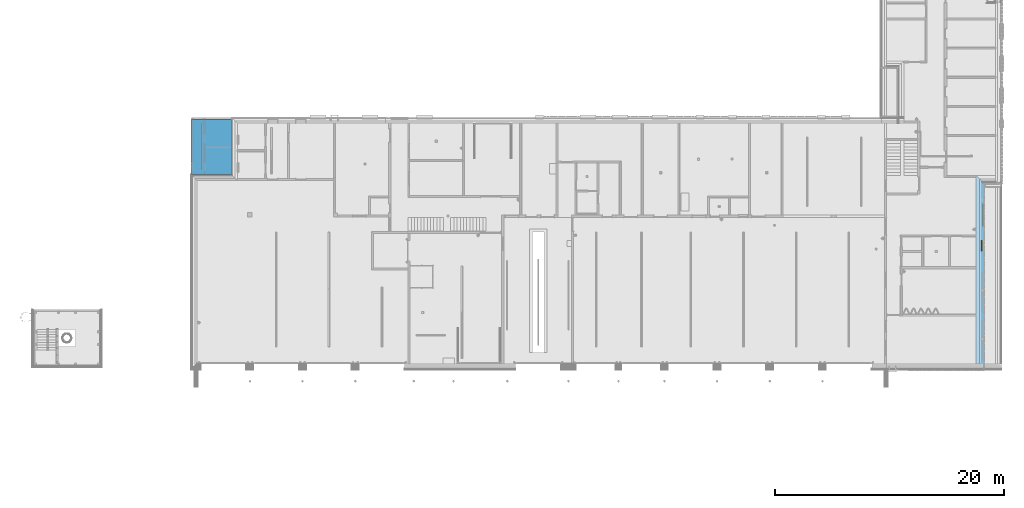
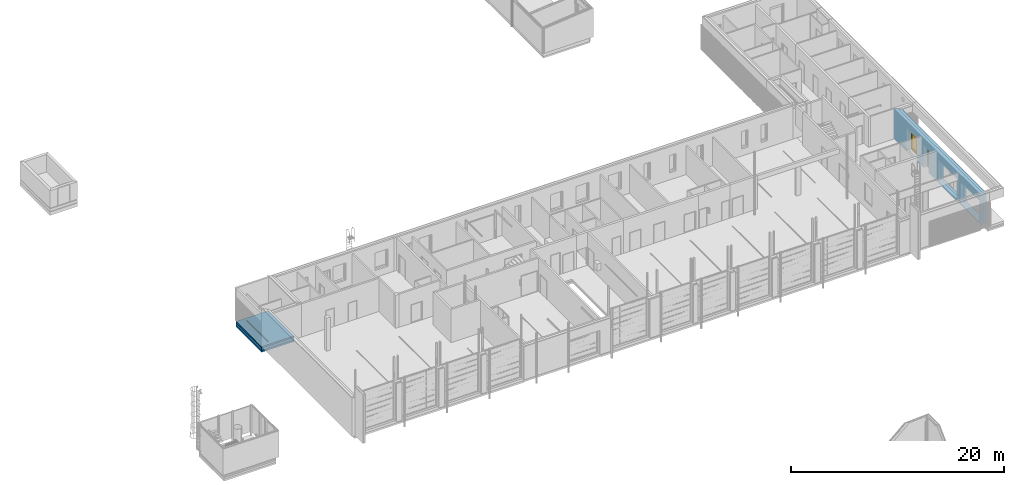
# One storey, part 54 of 112: 3 building element parts, 2 doors, 4 openings, 2 elements without a shape of their own, plus 4 elements that do not belong to this part.
"""IFC2X3 building model written with IfcOpenShell, lengths in millimetres."""

import ifcopenshell
import ifcopenshell.guid

model = None  # the IFC model being written
_history = None  # IfcOwnerHistory: only IFC2X3 demands one
_inside = {}  # id of a spatial element -> (the spatial element, [elements in it])
_under = {}  # id of a project, library or spatial element -> (it, [spatial elements below it])
_declared = {}  # id of a project -> (the project, [libraries it declares])
_typed = {}  # id of a type object -> (the type object, [elements of that type])
_made_of = {}  # id of a material, layer set ... -> (it, [elements and type objects made of it])


def new_model(schema):
    """Start an empty IFC model of exactly this schema.

    Asked for "IFC4X3", IfcOpenShell would pick the latest addendum, in which some entities
    have other attributes; the version numbers below select the first issue.
    IFC2X3 requires an IfcOwnerHistory on every rooted entity: one is made here for all.
    """
    global model, _history
    if schema == "IFC4X3":
        model = ifcopenshell.file(schema_version=(4, 3, 0, 0))
    else:
        model = ifcopenshell.file(schema=schema)
    _inside.clear()
    _under.clear()
    _declared.clear()
    _typed.clear()
    _made_of.clear()
    _history = None
    if model.schema == "IFC2X3":
        org = make("IfcOrganization", Name="unknown")
        user = make(
            "IfcPersonAndOrganization",
            ThePerson=make("IfcPerson", FamilyName="unknown"),
            TheOrganization=org,
        )
        app = make(
            "IfcApplication",
            ApplicationDeveloper=org,
            Version="unknown",
            ApplicationFullName="unknown",
            ApplicationIdentifier="unknown",
        )
        _history = make(
            "IfcOwnerHistory",
            OwningUser=user,
            OwningApplication=app,
            ChangeAction="ADDED",
            CreationDate=0,
        )
    return model


def make(cls, **values):
    """One entity of the class cls with the attributes given. An attribute that is None is left unset."""
    return model.create_entity(
        cls, **{name: value for name, value in values.items() if value is not None}
    )


def entity(cls, *values):
    """Any entity or typed value of the class cls, its attributes in the order of the schema. None: left unset."""
    e = model.create_entity(cls)
    for i, value in enumerate(values):
        if value is not None:
            e[i] = value
    return e


def rooted(cls, **values):
    """An entity with a GlobalId (a new one), such as an element, a storey or a relation."""
    return make(cls, GlobalId=ifcopenshell.guid.new(), OwnerHistory=_history, **values)


def si_unit(unit_type, name, prefix=None):
    """IfcSIUnit, for example si_unit("LENGTHUNIT", "METRE", prefix="MILLI")."""
    return make("IfcSIUnit", UnitType=unit_type, Prefix=prefix, Name=name)


def converted_unit(unit_type, name, factor, base, dimensions=None, offset=None):
    """IfcConversionBasedUnit, such as the inch: factor (a typed value) times the base unit."""
    return make(
        "IfcConversionBasedUnit"
        if offset is None
        else "IfcConversionBasedUnitWithOffset",
        ConversionOffset=offset,
        Dimensions=None
        if dimensions is None
        else entity("IfcDimensionalExponents", *dimensions),
        UnitType=unit_type,
        Name=name,
        ConversionFactor=make(
            "IfcMeasureWithUnit", ValueComponent=factor, UnitComponent=base
        ),
    )


def derived_unit(unit_type, elements):
    """IfcDerivedUnit: a product of units, each with its exponent."""
    return make(
        "IfcDerivedUnit",
        Elements=[
            make("IfcDerivedUnitElement", Unit=unit, Exponent=power)
            for unit, power in elements
        ],
        UnitType=unit_type,
    )


def money_unit(currency):
    """IfcMonetaryUnit."""
    return make("IfcMonetaryUnit", Currency=currency)


def assignment(units):
    """IfcUnitAssignment: the units of a project."""
    return None if units is None else make("IfcUnitAssignment", Units=units)


def point(xyz):
    """IfcCartesianPoint."""
    return None if xyz is None else make("IfcCartesianPoint", Coordinates=xyz)


def direction(xyz):
    """IfcDirection."""
    return None if xyz is None else make("IfcDirection", DirectionRatios=xyz)


def frame(location, z_axis=None, x_axis=None):
    """IfcAxis2Placement3D, a coordinate frame: its origin and axes. An axis left out is left unset."""
    return make(
        "IfcAxis2Placement3D",
        Location=point(location),
        Axis=direction(z_axis),
        RefDirection=direction(x_axis),
    )


def frame_2d(location, x_axis=None):
    """IfcAxis2Placement2D, a coordinate frame in the plane: its origin and x axis."""
    return make(
        "IfcAxis2Placement2D", Location=point(location), RefDirection=direction(x_axis)
    )


def origin_with_axes():
    """The frame at (0, 0, 0) with the z axis (0, 0, 1) and the x axis (1, 0, 0) written out."""
    return frame((0.0, 0.0, 0.0), z_axis=(0.0, 0.0, 1.0), x_axis=(1.0, 0.0, 0.0))


def origin_2d_with_axis():
    """The frame at (0, 0) in the plane with the x axis (1, 0) written out."""
    return frame_2d((0.0, 0.0), x_axis=(1.0, 0.0))


def place(relative_to, where):
    """IfcLocalPlacement: puts the frame where relative to a parent placement (None: the world)."""
    return make(
        "IfcLocalPlacement", PlacementRelTo=relative_to, RelativePlacement=where
    )


def context(
    kind, dimensions, precision=None, world=None, true_north=None, identifier=None
):
    """IfcGeometricRepresentationContext, for example the 3D "Model" context."""
    return make(
        "IfcGeometricRepresentationContext",
        ContextIdentifier=identifier,
        ContextType=kind,
        CoordinateSpaceDimension=dimensions,
        Precision=precision,
        WorldCoordinateSystem=world,
        TrueNorth=true_north,
    )


def subcontext(parent, identifier, kind, view, scale=None):
    """IfcGeometricRepresentationSubContext, for example "Body" below "Model"."""
    return make(
        "IfcGeometricRepresentationSubContext",
        ContextIdentifier=identifier,
        ContextType=kind,
        ParentContext=parent,
        TargetScale=scale,
        TargetView=view,
    )


def project(units=None, contexts=None):
    """IfcProject with its units and contexts."""
    return rooted(
        "IfcProject",
        Name="project",
        RepresentationContexts=contexts,
        UnitsInContext=assignment(units),
    )


def spatial(cls, under=None, at=None, **own):
    """A site, building, storey or space (cls), placed at a placement, below another one or the project."""
    s = rooted(cls, ObjectPlacement=at, **own)
    if under is not None:
        _under.setdefault(under.id(), (under, []))[1].append(s)
    return s


def polyline(points):
    """IfcPolyline through the points."""
    return make("IfcPolyline", Points=[point(p) for p in points])


def profile(cls, at=None, kind="AREA", **sizes):
    """A parametric profile (cls). Its sizes go by their IFC names, for example OverallWidth=200.0."""
    return make(cls, ProfileType=kind, Position=at, **sizes)


def rectangle(**sizes):
    """IfcRectangleProfileDef."""
    return profile("IfcRectangleProfileDef", **sizes)


def outline(outer, holes=None, kind="AREA"):
    """IfcArbitraryClosedProfileDef: a profile drawn as a closed curve; with holes, ...WithVoids."""
    if holes is None:
        return make("IfcArbitraryClosedProfileDef", ProfileType=kind, OuterCurve=outer)
    return make(
        "IfcArbitraryProfileDefWithVoids",
        ProfileType=kind,
        OuterCurve=outer,
        InnerCurves=holes,
    )


def extrude(swept, where, along, depth):
    """IfcExtrudedAreaSolid: the profile swept, set in the frame where, extruded along a direction by depth."""
    return make(
        "IfcExtrudedAreaSolid",
        SweptArea=swept,
        Position=where,
        ExtrudedDirection=direction(along),
        Depth=depth,
    )


def boolean(op, a, b):
    """IfcBooleanResult of two solids."""
    return make("IfcBooleanResult", Operator=op, FirstOperand=a, SecondOperand=b)


def faces_of(points, faces, orient=None, outer=None):
    """IfcFace entities. A face is a list of loops; a loop is a list of indices into points, from 0.

    orient and outer hold one flag for each loop. By default every Orientation is true, the
    first loop of a face is its IfcFaceOuterBound and the others are IfcFaceBound.
    """
    made = []
    for i, loops in enumerate(faces):
        bounds = []
        for j, loop in enumerate(loops):
            is_outer = j == 0 if outer is None else outer[i][j]
            bounds.append(
                make(
                    "IfcFaceOuterBound" if is_outer else "IfcFaceBound",
                    Bound=make("IfcPolyLoop", Polygon=[points[k] for k in loop]),
                    Orientation=True if orient is None else orient[i][j],
                )
            )
        made.append(make("IfcFace", Bounds=bounds))
    return made


def open_shell(faces, orient=None, outer=None):
    """The faces of one IfcOpenShell. surface_model builds it on its shared points."""
    return ("IfcOpenShell", faces, orient, outer)


def faceted_brep(points, faces, orient=None, outer=None, voids=None):
    """IfcFacetedBrep: a solid bounded by flat faces; with voids (closed shells), ...WithVoids."""
    shared = [point(p) for p in points]
    hull = make("IfcClosedShell", CfsFaces=faces_of(shared, faces, orient, outer))
    if voids is None:
        return make("IfcFacetedBrep", Outer=hull)
    return make(
        "IfcFacetedBrepWithVoids",
        Outer=hull,
        Voids=[
            make(cls, CfsFaces=faces_of(shared, fs, o, b)) for cls, fs, o, b in voids
        ],
    )


def surface_model(cls, points, shells):
    """IfcFaceBasedSurfaceModel or IfcShellBasedSurfaceModel (cls): surfaces that need not close."""
    shared = [point(p) for p in points]
    made = [make(c, CfsFaces=faces_of(shared, fs, o, b)) for c, fs, o, b in shells]
    if cls == "IfcFaceBasedSurfaceModel":
        return make(cls, FbsmFaces=made)
    return make(cls, SbsmBoundary=made)


def shape(context_of_items, identifier, shape_type, items):
    """IfcShapeRepresentation: the items that make up one representation, for example the "Body"."""
    return make(
        "IfcShapeRepresentation",
        ContextOfItems=context_of_items,
        RepresentationIdentifier=identifier,
        RepresentationType=shape_type,
        Items=items,
    )


def material(Name=None, Category=None):
    """IfcMaterial."""
    return make("IfcMaterial", Name=Name, Category=Category)


def made_of(thing, what):
    """Note that an element or type object is made of a material, layer set ...; save() writes the relation."""
    if what is not None:
        _made_of.setdefault(what.id(), (what, []))[1].append(thing)
    return thing


def type_object(cls, material=None, **own):
    """A type object (cls), such as IfcWallType, which elements share."""
    return made_of(rooted(cls, **own), material)


def element(
    cls,
    number,
    at=None,
    inside=None,
    cuts=None,
    type_object=None,
    material=None,
    context=None,
    identifier="Body",
    shape_type=None,
    held_by="IfcProductDefinitionShape",
    body=None,
    shapes=None,
    **own,
):
    """One element of the class cls, such as IfcWall. Its Tag is "e" and its number.

    at: its placement. inside: the storey or other place that contains it. cuts: it is an
    opening in that element (IfcRelVoidsElement). A single representation is given by context,
    identifier, shape_type and body (its items); several are given by shapes. held_by: the class
    of the entity that holds the representations. save() writes the other relations.
    """
    e = rooted(cls, Tag="e%d" % number, ObjectPlacement=at, **own)
    if body is not None:
        shapes = [shape(context, identifier, shape_type, body)]
    if shapes is not None:
        e.Representation = make(held_by, Representations=shapes)
    if inside is not None:
        _inside.setdefault(inside.id(), (inside, []))[1].append(e)
    if cuts is not None:
        rooted(
            "IfcRelVoidsElement", RelatingBuildingElement=cuts, RelatedOpeningElement=e
        )
    if type_object is not None:
        _typed.setdefault(type_object.id(), (type_object, []))[1].append(e)
    return made_of(e, material)


def fill(opening, filler):
    """IfcRelFillsElement: the door or window that sits in an opening."""
    return rooted(
        "IfcRelFillsElement",
        RelatingOpeningElement=opening,
        RelatedBuildingElement=filler,
    )


def aggregate(whole, parts):
    """IfcRelAggregates: a whole, such as a stair, and the parts it consists of."""
    return rooted("IfcRelAggregates", RelatingObject=whole, RelatedObjects=parts)


def save(model, path):
    """Write the relations noted so far, then the file.

    IfcRelAggregates (storeys below a building ...), IfcRelContainedInSpatialStructure (elements
    in a storey), IfcRelDefinesByType, IfcRelAssociatesMaterial and IfcRelDeclares: one each for
    every whole, place, type object, material and project.
    """
    for whole, parts in _under.values():
        aggregate(whole, parts)
    for where, things in _inside.values():
        rooted(
            "IfcRelContainedInSpatialStructure",
            RelatedElements=things,
            RelatingStructure=where,
        )
    for kind, things in _typed.values():
        rooted("IfcRelDefinesByType", RelatedObjects=things, RelatingType=kind)
    for what, things in _made_of.values():
        rooted("IfcRelAssociatesMaterial", RelatedObjects=things, RelatingMaterial=what)
    for by, libraries in _declared.values():
        rooted("IfcRelDeclares", RelatingContext=by, RelatedDefinitions=libraries)
    model.write(path)


model = new_model("IFC2X3")

# Units and contexts
model_context = context("Model", 3, precision=0.01, world=origin_with_axes(), true_north=direction((0.0, 1.0)))
body_context = subcontext(model_context, "Body", "Model", "MODEL_VIEW")
ifc_project = project(units=[si_unit("LENGTHUNIT", "METRE", prefix="MILLI"), si_unit("AREAUNIT", "SQUARE_METRE"), si_unit("VOLUMEUNIT", "CUBIC_METRE"), converted_unit("PLANEANGLEUNIT", "DEGREE", entity("IfcPlaneAngleMeasure", 0.0174532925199), si_unit("PLANEANGLEUNIT", "RADIAN"), dimensions=[0, 0, 0, 0, 0, 0, 0]), si_unit("SOLIDANGLEUNIT", "STERADIAN"), money_unit("EUR"), converted_unit("TIMEUNIT", "Year", entity("IfcTimeMeasure", 31556926.0), si_unit("TIMEUNIT", "SECOND"), dimensions=[0, 0, 1, 0, 0, 0, 0]), si_unit("MASSUNIT", "GRAM", prefix="KILO"), si_unit("THERMODYNAMICTEMPERATUREUNIT", "DEGREE_CELSIUS"), si_unit("LUMINOUSINTENSITYUNIT", "LUMEN"), si_unit("ENERGYUNIT", "JOULE", prefix="MEGA"), derived_unit("THERMALCONDUCTANCEUNIT", [(si_unit("POWERUNIT", "WATT"), 1), (si_unit("LENGTHUNIT", "METRE"), -1), (si_unit("THERMODYNAMICTEMPERATUREUNIT", "KELVIN"), -1)]), derived_unit("SPECIFICHEATCAPACITYUNIT", [(si_unit("ENERGYUNIT", "JOULE"), 1), (si_unit("MASSUNIT", "GRAM", prefix="KILO"), -1), (si_unit("THERMODYNAMICTEMPERATUREUNIT", "KELVIN"), -1)]), derived_unit("MASSDENSITYUNIT", [(si_unit("MASSUNIT", "GRAM", prefix="KILO"), 1), (si_unit("VOLUMEUNIT", "CUBIC_METRE"), -1)])], contexts=[model_context])

# Site, building, storey
site_placement = place(None, origin_with_axes())
site = spatial("IfcSite", under=ifc_project, at=site_placement, Name="Politse- ja Piirivalveameti ning Päästeameti ühishoone", CompositionType="ELEMENT")
building_placement = place(site_placement, origin_with_axes())
building = spatial("IfcBuilding", under=site, at=building_placement, Name="Politse- ja Piirivalveameti ning Päästeameti ühishoone", CompositionType="ELEMENT")
storey_placement = place(building_placement, origin_with_axes())
storey = spatial("IfcBuildingStorey", under=building, at=storey_placement, Name="Esimene korrus", CompositionType="ELEMENT", Elevation=0.0)

# Door
door_style_1 = type_object("IfcDoorStyle", Name="Double Door with Transom 23", ConstructionType="NOTDEFINED", OperationType="DOUBLE_DOOR_SINGLE_SWING", ParameterTakesPrecedence=False, Sizeable=False)
wall_placement = place(storey_placement, frame((67960.5638285, 0.0, 0.0), z_axis=(0.0, 0.0, 1.0), x_axis=(0.0, 1.0, 0.0)))
opening_3_placement = place(wall_placement, frame((13002.9890326, 0.0, 0.0), z_axis=(0.0, 0.0, 1.0), x_axis=(1.0, 0.0, 0.0)))
door_1_placement = place(opening_3_placement, frame((1000.0, 0.0, 0.0), z_axis=(0.0, 0.0, 1.0), x_axis=(-1.0, 0.0, 0.0)))
door_1 = element("IfcDoor", 1, at=door_1_placement, inside=storey, type_object=door_style_1, Name="VU-02", ObjectType="DOOR", OverallHeight=2600.0, OverallWidth=2000.0, context=body_context, shape_type="SurfaceModel", body=[
    faceted_brep([(1972.0, 580.0, 0.0), (1972.0, 580.0, 12.0), (1960.0, 580.0, 12.0), (1960.0, 580.0, 0.0), (28.0, 580.0, 0.0), (28.0, 580.0, 12.0), (40.0, 580.0, 12.0), (40.0, 505.0, 12.0), (1960.0, 505.0, 12.0), (1960.0, 505.0, 0.0), (40.0, 505.0, 0.0), (40.0, 580.0, 0.0)], [[[0, 1, 2, 3]], [[4, 5, 1, 0]], [[1, 5, 6, 7, 8, 2]], [[3, 2, 8, 9]], [[0, 3, 9, 10, 11, 4]], [[11, 6, 5, 4]], [[10, 7, 6, 11]], [[9, 8, 7, 10]]]),
    faceted_brep([(40.0, 580.0, 2112.0), (40.0, 620.0, 2112.0), (40.0, 620.0, 2140.0), (40.0, 505.0, 2140.0), (40.0, 505.0, 2100.0), (40.0, 505.0, 0.0), (40.0, 580.0, 0.0), (28.0, 580.0, 2112.0), (28.0, 620.0, 2112.0), (28.0, 620.0, 0.0), (0.0, 620.0, 0.0), (0.0, 620.0, 2560.0), (40.0, 620.0, 2560.0), (40.0, 505.0, 2560.0), (0.0, 505.0, 2560.0), (0.0, 505.0, 0.0), (28.0, 580.0, 0.0)], [[[0, 1, 2, 3, 4, 5, 6]], [[1, 0, 7, 8]], [[8, 9, 10, 11, 12, 2, 1]], [[12, 13, 3, 2]], [[3, 13, 14, 15, 5, 4]], [[16, 6, 5, 15, 10, 9]], [[0, 6, 16, 7]], [[9, 8, 7, 16]], [[10, 15, 14, 11]], [[11, 14, 13, 12]]]),
    faceted_brep([(1972.0, 620.0, 2112.0), (1960.0, 620.0, 2112.0), (1960.0, 620.0, 2140.0), (1960.0, 620.0, 2560.0), (2000.0, 620.0, 2560.0), (2000.0, 620.0, 0.0), (1972.0, 620.0, 0.0), (1972.0, 580.0, 2112.0), (1960.0, 580.0, 2112.0), (1960.0, 580.0, 0.0), (1960.0, 505.0, 0.0), (1960.0, 505.0, 2100.0), (1960.0, 505.0, 2140.0), (1960.0, 505.0, 2560.0), (2000.0, 505.0, 2560.0), (2000.0, 505.0, 0.0), (1972.0, 580.0, 0.0)], [[[0, 1, 2, 3, 4, 5, 6]], [[1, 0, 7, 8]], [[8, 9, 10, 11, 12, 2, 1]], [[2, 12, 13, 3]], [[3, 13, 14, 4]], [[4, 14, 15, 5]], [[16, 6, 5, 15, 10, 9]], [[0, 6, 16, 7]], [[16, 9, 8, 7]], [[12, 11, 10, 15, 14, 13]]]),
    faceted_brep([(0.0, 620.0, 2600.0), (0.0, 620.0, 2560.0), (0.0, 505.0, 2560.0), (0.0, 505.0, 2600.0), (2000.0, 620.0, 2600.0), (2000.0, 620.0, 2560.0), (1960.0, 620.0, 2560.0), (40.0, 620.0, 2560.0), (40.0, 505.0, 2560.0), (1960.0, 505.0, 2560.0), (2000.0, 505.0, 2560.0), (2000.0, 505.0, 2600.0)], [[[0, 1, 2, 3]], [[0, 4, 5, 6, 7, 1]], [[1, 7, 8, 2]], [[3, 2, 8, 9, 10, 11]], [[4, 0, 3, 11]], [[5, 4, 11, 10]], [[6, 5, 10, 9]], [[7, 6, 9, 8]]]),
    faceted_brep([(1960.0, 580.0, 2112.0), (1960.0, 620.0, 2112.0), (1960.0, 620.0, 2140.0), (1960.0, 505.0, 2140.0), (1960.0, 505.0, 2100.0), (1960.0, 580.0, 2100.0), (40.0, 580.0, 2112.0), (40.0, 620.0, 2112.0), (40.0, 620.0, 2140.0), (40.0, 505.0, 2140.0), (40.0, 505.0, 2100.0), (40.0, 580.0, 2100.0)], [[[0, 1, 2, 3, 4, 5]], [[1, 0, 6, 7]], [[1, 7, 8, 2]], [[8, 9, 3, 2]], [[10, 4, 3, 9]], [[11, 5, 4, 10]], [[0, 5, 11, 6]], [[6, 11, 10, 9, 8, 7]]]),
    faceted_brep([(1972.0, 620.0, 200.0), (1972.0, 580.0, 200.0), (1872.0, 580.0, 200.0), (1872.0, 620.0, 200.0), (1972.0, 620.0, 2012.0), (1972.0, 580.0, 2012.0), (1872.0, 580.0, 2012.0), (1872.0, 620.0, 2012.0)], [[[0, 1, 2, 3]], [[4, 5, 1, 0]], [[1, 5, 6, 2]], [[3, 2, 6, 7]], [[0, 3, 7, 4]], [[7, 6, 5, 4]]]),
    faceted_brep([(1000.0, 620.0, 200.0), (1000.0, 580.0, 200.0), (1000.0, 580.0, 2012.0), (1000.0, 620.0, 2012.0), (1100.0, 620.0, 200.0), (1100.0, 580.0, 200.0), (1100.0, 580.0, 2012.0), (1100.0, 620.0, 2012.0)], [[[0, 1, 2, 3]], [[4, 5, 1, 0]], [[1, 5, 6, 2]], [[3, 2, 6, 7]], [[0, 3, 7, 4]], [[7, 6, 5, 4]]]),
    faceted_brep([(1972.0, 620.0, 0.0), (1972.0, 580.0, 0.0), (1000.0, 580.0, 0.0), (1000.0, 620.0, 0.0), (1972.0, 620.0, 200.0), (1972.0, 580.0, 200.0), (1872.0, 580.0, 200.0), (1100.0, 580.0, 200.0), (1000.0, 580.0, 200.0), (1000.0, 620.0, 200.0), (1100.0, 620.0, 200.0), (1872.0, 620.0, 200.0)], [[[0, 1, 2, 3]], [[4, 5, 1, 0]], [[1, 5, 6, 7, 8, 2]], [[3, 2, 8, 9]], [[0, 3, 9, 10, 11, 4]], [[11, 6, 5, 4]], [[10, 7, 6, 11]], [[9, 8, 7, 10]]]),
    faceted_brep([(1972.0, 620.0, 2112.0), (1972.0, 580.0, 2112.0), (1972.0, 580.0, 2012.0), (1972.0, 620.0, 2012.0), (1000.0, 620.0, 2112.0), (1000.0, 580.0, 2112.0), (1000.0, 580.0, 2012.0), (1100.0, 580.0, 2012.0), (1872.0, 580.0, 2012.0), (1872.0, 620.0, 2012.0), (1100.0, 620.0, 2012.0), (1000.0, 620.0, 2012.0)], [[[0, 1, 2, 3]], [[4, 5, 1, 0]], [[1, 5, 6, 7, 8, 2]], [[3, 2, 8, 9]], [[0, 3, 9, 10, 11, 4]], [[11, 6, 5, 4]], [[10, 7, 6, 11]], [[9, 8, 7, 10]]]),
    surface_model("IfcShellBasedSurfaceModel", [(1872.0, 606.0, 200.0), (1100.0, 606.0, 200.0), (1100.0, 606.0, 2012.0), (1872.0, 606.0, 2012.0)], [open_shell([[[0, 1, 2, 3]]])]),
    surface_model("IfcShellBasedSurfaceModel", [(1872.0, 594.0, 200.0), (1872.0, 594.0, 2012.0), (1100.0, 594.0, 2012.0), (1100.0, 594.0, 200.0)], [open_shell([[[0, 1, 2, 3]]])]),
    faceted_brep([(28.0, 620.0, 200.0), (128.0, 620.0, 200.0), (128.0, 580.0, 200.0), (28.0, 580.0, 200.0), (28.0, 620.0, 2012.0), (128.0, 620.0, 2012.0), (128.0, 580.0, 2012.0), (28.0, 580.0, 2012.0)], [[[0, 1, 2, 3]], [[0, 4, 5, 1]], [[1, 5, 6, 2]], [[3, 2, 6, 7]], [[4, 0, 3, 7]], [[5, 4, 7, 6]]]),
    faceted_brep([(1000.0, 620.0, 200.0), (1000.0, 620.0, 2012.0), (1000.0, 580.0, 2012.0), (1000.0, 580.0, 200.0), (900.0, 620.0, 200.0), (900.0, 620.0, 2012.0), (900.0, 580.0, 2012.0), (900.0, 580.0, 200.0)], [[[0, 1, 2, 3]], [[0, 4, 5, 1]], [[1, 5, 6, 2]], [[3, 2, 6, 7]], [[4, 0, 3, 7]], [[5, 4, 7, 6]]]),
    faceted_brep([(28.0, 620.0, 0.0), (1000.0, 620.0, 0.0), (1000.0, 580.0, 0.0), (28.0, 580.0, 0.0), (28.0, 620.0, 200.0), (128.0, 620.0, 200.0), (900.0, 620.0, 200.0), (1000.0, 620.0, 200.0), (1000.0, 580.0, 200.0), (900.0, 580.0, 200.0), (128.0, 580.0, 200.0), (28.0, 580.0, 200.0)], [[[0, 1, 2, 3]], [[0, 4, 5, 6, 7, 1]], [[1, 7, 8, 2]], [[3, 2, 8, 9, 10, 11]], [[4, 0, 3, 11]], [[5, 4, 11, 10]], [[6, 5, 10, 9]], [[7, 6, 9, 8]]]),
    faceted_brep([(28.0, 620.0, 2112.0), (28.0, 620.0, 2012.0), (28.0, 580.0, 2012.0), (28.0, 580.0, 2112.0), (1000.0, 620.0, 2112.0), (1000.0, 620.0, 2012.0), (900.0, 620.0, 2012.0), (128.0, 620.0, 2012.0), (128.0, 580.0, 2012.0), (900.0, 580.0, 2012.0), (1000.0, 580.0, 2012.0), (1000.0, 580.0, 2112.0)], [[[0, 1, 2, 3]], [[0, 4, 5, 6, 7, 1]], [[1, 7, 8, 2]], [[3, 2, 8, 9, 10, 11]], [[4, 0, 3, 11]], [[5, 4, 11, 10]], [[6, 5, 10, 9]], [[7, 6, 9, 8]]]),
    surface_model("IfcShellBasedSurfaceModel", [(128.0, 606.0, 200.0), (128.0, 606.0, 2012.0), (900.0, 606.0, 2012.0), (900.0, 606.0, 200.0)], [open_shell([[[0, 1, 2, 3]]])]),
    surface_model("IfcShellBasedSurfaceModel", [(128.0, 594.0, 200.0), (900.0, 594.0, 200.0), (900.0, 594.0, 2012.0), (128.0, 594.0, 2012.0)], [open_shell([[[0, 1, 2, 3]]])]),
    surface_model("IfcShellBasedSurfaceModel", [(40.0, 529.0, 2140.0), (40.0, 529.0, 2560.0), (1960.0, 529.0, 2560.0), (1960.0, 529.0, 2140.0)], [open_shell([[[0, 1, 2, 3]]])]),
    surface_model("IfcShellBasedSurfaceModel", [(40.0, 517.0, 2140.0), (1960.0, 517.0, 2140.0), (1960.0, 517.0, 2560.0), (40.0, 517.0, 2560.0)], [open_shell([[[0, 1, 2, 3]]])]),
])

door_style_2 = type_object("IfcDoorStyle", Name="Door with Transom 23", ConstructionType="NOTDEFINED", OperationType="SINGLE_SWING_LEFT", ParameterTakesPrecedence=False, Sizeable=False)
opening_4_placement = place(wall_placement, frame((10303.1201278, 0.0, 0.0), z_axis=(0.0, 0.0, 1.0), x_axis=(1.0, 0.0, 0.0)))
door_2_placement = place(opening_4_placement, frame((500.0, 0.0, 0.0), z_axis=(0.0, 0.0, 1.0), x_axis=(-1.0, 0.0, 0.0)))
door_2 = element("IfcDoor", 2, at=door_2_placement, inside=storey, type_object=door_style_2, Name="VU-07", ObjectType="DOOR", OverallHeight=2600.0, OverallWidth=1000.0, context=body_context, shape_type="SurfaceModel", body=[
    faceted_brep([(28.0, 510.0, 0.0), (40.0, 510.0, 0.0), (40.0, 510.0, 12.0), (28.0, 510.0, 12.0), (972.0, 510.0, 0.0), (960.0, 510.0, 0.0), (960.0, 435.0, 0.0), (40.0, 435.0, 0.0), (40.0, 435.0, 12.0), (960.0, 435.0, 12.0), (960.0, 510.0, 12.0), (972.0, 510.0, 12.0)], [[[0, 1, 2, 3]], [[0, 4, 5, 6, 7, 1]], [[1, 7, 8, 2]], [[3, 2, 8, 9, 10, 11]], [[4, 0, 3, 11]], [[5, 4, 11, 10]], [[6, 5, 10, 9]], [[7, 6, 9, 8]]]),
    faceted_brep([(960.0, 510.0, 2112.0), (960.0, 510.0, 0.0), (960.0, 435.0, 0.0), (960.0, 435.0, 2100.0), (960.0, 435.0, 2140.0), (960.0, 550.0, 2140.0), (960.0, 550.0, 2112.0), (972.0, 510.0, 2112.0), (972.0, 510.0, 0.0), (972.0, 550.0, 0.0), (1000.0, 550.0, 0.0), (1000.0, 435.0, 0.0), (1000.0, 435.0, 2560.0), (960.0, 435.0, 2560.0), (960.0, 550.0, 2560.0), (972.0, 550.0, 2112.0), (1000.0, 550.0, 2560.0)], [[[0, 1, 2, 3, 4, 5, 6]], [[0, 7, 8, 1]], [[8, 9, 10, 11, 2, 1]], [[4, 3, 2, 11, 12, 13]], [[14, 5, 4, 13]], [[15, 6, 5, 14, 16, 10, 9]], [[6, 15, 7, 0]], [[9, 8, 7, 15]], [[10, 16, 12, 11]], [[16, 14, 13, 12]]]),
    faceted_brep([(28.0, 550.0, 2112.0), (28.0, 550.0, 0.0), (0.0, 550.0, 0.0), (0.0, 550.0, 2560.0), (40.0, 550.0, 2560.0), (40.0, 550.0, 2140.0), (40.0, 550.0, 2112.0), (28.0, 510.0, 2112.0), (28.0, 510.0, 0.0), (40.0, 510.0, 0.0), (40.0, 435.0, 0.0), (0.0, 435.0, 0.0), (0.0, 435.0, 2560.0), (40.0, 435.0, 2560.0), (40.0, 435.0, 2140.0), (40.0, 510.0, 2112.0), (40.0, 435.0, 2100.0)], [[[0, 1, 2, 3, 4, 5, 6]], [[0, 7, 8, 1]], [[8, 9, 10, 11, 2, 1]], [[3, 2, 11, 12]], [[4, 3, 12, 13]], [[5, 4, 13, 14]], [[15, 6, 5, 14, 16, 10, 9]], [[6, 15, 7, 0]], [[8, 7, 15, 9]], [[14, 13, 12, 11, 10, 16]]]),
    faceted_brep([(1000.0, 550.0, 2600.0), (1000.0, 435.0, 2600.0), (1000.0, 435.0, 2560.0), (1000.0, 550.0, 2560.0), (0.0, 550.0, 2600.0), (0.0, 435.0, 2600.0), (0.0, 435.0, 2560.0), (40.0, 435.0, 2560.0), (960.0, 435.0, 2560.0), (960.0, 550.0, 2560.0), (40.0, 550.0, 2560.0), (0.0, 550.0, 2560.0)], [[[0, 1, 2, 3]], [[4, 5, 1, 0]], [[1, 5, 6, 7, 8, 2]], [[3, 2, 8, 9]], [[0, 3, 9, 10, 11, 4]], [[11, 6, 5, 4]], [[10, 7, 6, 11]], [[9, 8, 7, 10]]]),
    faceted_brep([(40.0, 510.0, 2112.0), (40.0, 510.0, 2100.0), (40.0, 435.0, 2100.0), (40.0, 435.0, 2140.0), (40.0, 550.0, 2140.0), (40.0, 550.0, 2112.0), (960.0, 510.0, 2112.0), (960.0, 510.0, 2100.0), (960.0, 435.0, 2100.0), (960.0, 435.0, 2140.0), (960.0, 550.0, 2140.0), (960.0, 550.0, 2112.0)], [[[0, 1, 2, 3, 4, 5]], [[0, 6, 7, 1]], [[7, 8, 2, 1]], [[8, 9, 3, 2]], [[10, 4, 3, 9]], [[5, 4, 10, 11]], [[5, 11, 6, 0]], [[6, 11, 10, 9, 8, 7]]]),
    faceted_brep([(28.0, 550.0, 200.0), (128.0, 550.0, 200.0), (128.0, 510.0, 200.0), (28.0, 510.0, 200.0), (28.0, 550.0, 2012.0), (128.0, 550.0, 2012.0), (128.0, 510.0, 2012.0), (28.0, 510.0, 2012.0)], [[[0, 1, 2, 3]], [[0, 4, 5, 1]], [[1, 5, 6, 2]], [[3, 2, 6, 7]], [[4, 0, 3, 7]], [[5, 4, 7, 6]]]),
    faceted_brep([(972.0, 550.0, 200.0), (972.0, 550.0, 2012.0), (972.0, 510.0, 2012.0), (972.0, 510.0, 200.0), (872.0, 550.0, 200.0), (872.0, 550.0, 2012.0), (872.0, 510.0, 2012.0), (872.0, 510.0, 200.0)], [[[0, 1, 2, 3]], [[0, 4, 5, 1]], [[1, 5, 6, 2]], [[3, 2, 6, 7]], [[4, 0, 3, 7]], [[5, 4, 7, 6]]]),
    faceted_brep([(28.0, 550.0, 0.0), (972.0, 550.0, 0.0), (972.0, 510.0, 0.0), (28.0, 510.0, 0.0), (28.0, 550.0, 200.0), (128.0, 550.0, 200.0), (872.0, 550.0, 200.0), (972.0, 550.0, 200.0), (972.0, 510.0, 200.0), (872.0, 510.0, 200.0), (128.0, 510.0, 200.0), (28.0, 510.0, 200.0)], [[[0, 1, 2, 3]], [[0, 4, 5, 6, 7, 1]], [[1, 7, 8, 2]], [[3, 2, 8, 9, 10, 11]], [[4, 0, 3, 11]], [[5, 4, 11, 10]], [[6, 5, 10, 9]], [[7, 6, 9, 8]]]),
    faceted_brep([(28.0, 550.0, 2112.0), (28.0, 550.0, 2012.0), (28.0, 510.0, 2012.0), (28.0, 510.0, 2112.0), (972.0, 550.0, 2112.0), (972.0, 550.0, 2012.0), (872.0, 550.0, 2012.0), (128.0, 550.0, 2012.0), (128.0, 510.0, 2012.0), (872.0, 510.0, 2012.0), (972.0, 510.0, 2012.0), (972.0, 510.0, 2112.0)], [[[0, 1, 2, 3]], [[0, 4, 5, 6, 7, 1]], [[1, 7, 8, 2]], [[3, 2, 8, 9, 10, 11]], [[4, 0, 3, 11]], [[5, 4, 11, 10]], [[6, 5, 10, 9]], [[7, 6, 9, 8]]]),
    surface_model("IfcShellBasedSurfaceModel", [(128.0, 536.0, 200.0), (128.0, 536.0, 2012.0), (872.0, 536.0, 2012.0), (872.0, 536.0, 200.0)], [open_shell([[[0, 1, 2, 3]]])]),
    surface_model("IfcShellBasedSurfaceModel", [(128.0, 524.0, 200.0), (872.0, 524.0, 200.0), (872.0, 524.0, 2012.0), (128.0, 524.0, 2012.0)], [open_shell([[[0, 1, 2, 3]]])]),
    surface_model("IfcShellBasedSurfaceModel", [(960.0, 459.0, 2140.0), (40.0, 459.0, 2140.0), (40.0, 459.0, 2560.0), (960.0, 459.0, 2560.0)], [open_shell([[[0, 1, 2, 3]]])]),
    surface_model("IfcShellBasedSurfaceModel", [(960.0, 447.0, 2140.0), (960.0, 447.0, 2560.0), (40.0, 447.0, 2560.0), (40.0, 447.0, 2140.0)], [open_shell([[[0, 1, 2, 3]]])]),
])

# Wall, openings
wall_type = type_object("IfcWallType", Name="VS-03_välissein paneel300 + fassaadikassett 620", PredefinedType="NOTDEFINED")
wall = element("IfcWall", 3, at=wall_placement, inside=storey, type_object=wall_type, Name="VS-03")
opening_1_placement = place(wall_placement, frame((6253.00649306, 0.0, 200.0), z_axis=(0.0, 0.0, 1.0), x_axis=(1.0, 0.0, 0.0)))
element("IfcOpeningElement", 4, at=opening_1_placement, cuts=wall, Name="A-03", context=body_context, shape_type="SweptSolid", body=[
    extrude(rectangle(XDim=3500.0, YDim=2400.0, at=origin_2d_with_axis()), frame((0.0, -540.0, 1200.0), z_axis=(0.0, -1.0, 0.0), x_axis=(-1.0, 0.0, 0.0)), (0.0, 0.0, -1.0), 1160.0),
    extrude(rectangle(XDim=3500.0, YDim=2400.0, at=origin_2d_with_axis()), frame((0.0, -540.0, 1200.0), z_axis=(0.0, 1.0, 0.0), x_axis=(-1.0, 0.0, 0.0)), (0.0, 0.0, -1.0), 700.0),
])
opening_2_placement = place(wall_placement, frame((2053.00649306, 0.0, 200.0), z_axis=(0.0, 0.0, 1.0), x_axis=(1.0, 0.0, 0.0)))
element("IfcOpeningElement", 5, at=opening_2_placement, cuts=wall, Name="A-03", context=body_context, shape_type="SweptSolid", body=[
    extrude(rectangle(XDim=3500.0, YDim=2400.0, at=origin_2d_with_axis()), frame((0.0, -540.0, 1200.0), z_axis=(0.0, -1.0, 0.0), x_axis=(-1.0, 0.0, 0.0)), (0.0, 0.0, -1.0), 1160.0),
    extrude(rectangle(XDim=3500.0, YDim=2400.0, at=origin_2d_with_axis()), frame((0.0, -540.0, 1200.0), z_axis=(0.0, 1.0, 0.0), x_axis=(-1.0, 0.0, 0.0)), (0.0, 0.0, -1.0), 700.0),
])
opening_3 = element("IfcOpeningElement", 6, at=opening_3_placement, cuts=wall, Name="VU-02", context=body_context, shape_type="SweptSolid", body=[
    extrude(rectangle(XDim=2000.0, YDim=2600.0, at=origin_2d_with_axis()), frame((0.0, 620.0, 1300.0), z_axis=(0.0, -1.0, 0.0), x_axis=(-1.0, 0.0, 0.0)), (0.0, 0.0, 1.0), 1860.0),
])

fill(opening_3, door_1)

# Opening
opening_4 = element("IfcOpeningElement", 7, at=opening_4_placement, cuts=wall, Name="VU-07", context=body_context, shape_type="SweptSolid", body=[
    extrude(rectangle(XDim=1000.0, YDim=2600.0, at=origin_2d_with_axis()), frame((0.0, -550.0, 1300.0), z_axis=(0.0, 1.0, 0.0), x_axis=(1.0, 0.0, 0.0)), (0.0, 0.0, 1.0), 1170.0),
    extrude(rectangle(XDim=1000.0, YDim=2600.0, at=origin_2d_with_axis()), frame((0.0, -550.0, 1300.0), z_axis=(0.0, -1.0, 0.0), x_axis=(1.0, 0.0, 0.0)), (0.0, 0.0, 1.0), 690.0),
])

fill(opening_4, door_2)

# Building element part
ifc_material_1 = material(Name="KON-04_Betoon - Konstuktsioon")
building_element_part_1_placement = place(wall_placement, origin_with_axes())
building_element_part_1 = element("IfcBuildingElementPart", 8, at=building_element_part_1_placement, material=ifc_material_1, Name="KON-04_Betoon - Konstuktsioon", context=body_context, shape_type="SweptSolid", body=[
    extrude(outline(polyline([(0.0, -300.0), (16122.809139, -300.0), (16422.809139, 0.0), (0.0, 0.0), (0.0, -300.0)])), origin_with_axes(), (0.0, 0.0, 1.0), 3460.0),
])

ifc_material_2 = material(Name="SOJ-06_Soojustus - Plastik Kõva")
building_element_part_2_placement = place(wall_placement, origin_with_axes())
building_element_part_2 = element("IfcBuildingElementPart", 9, at=building_element_part_2_placement, material=ifc_material_2, Name="SOJ-06_Soojustus - Plastik Kõva", context=body_context, shape_type="SweptSolid", body=[
    extrude(outline(polyline([(0.0, -550.0), (15872.809139, -550.0), (16122.809139, -300.0), (0.0, -300.0), (0.0, -550.0)])), origin_with_axes(), (0.0, 0.0, 1.0), 3460.0),
])

ifc_material_3 = material(Name="Õhkvahe - Raam")
building_element_part_3_placement = place(wall_placement, origin_with_axes())
building_element_part_3 = element("IfcBuildingElementPart", 10, at=building_element_part_3_placement, material=ifc_material_3, Name="Õhkvahe - Raam", context=body_context, shape_type="SweptSolid", body=[
    extrude(outline(polyline([(0.0, -580.0), (15842.809139, -580.0), (15872.809139, -550.0), (0.0, -550.0), (0.0, -580.0)])), origin_with_axes(), (0.0, 0.0, 1.0), 3460.0),
])

ifc_material_4 = material(Name="GENEERILINE - VÄLINE VOODER")
building_element_part_4_placement = place(wall_placement, origin_with_axes())
building_element_part_4 = element("IfcBuildingElementPart", 11, at=building_element_part_4_placement, material=ifc_material_4, Name="GENEERILINE - VÄLINE VOODER", context=body_context, shape_type="SweptSolid", body=[
    extrude(outline(polyline([(0.0, -620.0), (15802.809139, -620.0), (15842.809139, -580.0), (0.0, -580.0), (0.0, -620.0)])), origin_with_axes(), (0.0, 0.0, 1.0), 3460.0),
])

aggregate(wall, [building_element_part_1, building_element_part_2, building_element_part_3, building_element_part_4])

# Slab, building element parts
slab_type = type_object("IfcSlabType", Name="PP-04_Põrand pinnasel 650", PredefinedType="NOTDEFINED")
slab_placement = place(storey_placement, frame((-510.0, 16510.0244444, 0.0), z_axis=(0.0, 0.0, 1.0), x_axis=(1.0, 0.0, 0.0)))
slab = element("IfcSlab", 12, at=slab_placement, inside=storey, type_object=slab_type, Name="PP-04", PredefinedType="NOTDEFINED")
ifc_material_5 = material(Name="VKK-03_Kruus")
building_element_part_5_placement = place(slab_placement, origin_with_axes())
building_element_part_5 = element("IfcBuildingElementPart", 13, at=building_element_part_5_placement, material=ifc_material_5, Name="VKK-03_Kruus", context=body_context, shape_type="CSG", body=[
    boolean("DIFFERENCE", extrude(outline(polyline([(0.0, 0.0), (3500.00534722, 0.0), (3500.00534722, 4799.92763877), (0.0, 4799.92763877), (0.0, 0.0)])), frame((0.0, 0.0, -650.0), z_axis=(0.0, 0.0, 1.0), x_axis=(1.0, 0.0, 0.0)), (0.0, 0.0, 1.0), 200.0), faceted_brep([(893.831650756, 399.963819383, 0.0), (993.831650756, 399.963819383, 0.0), (993.831650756, 4399.96381938, 0.0), (893.831650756, 4399.96381938, 0.0), (893.831650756, 399.963819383, -100.0), (993.831650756, 399.963819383, -100.0), (993.831650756, 4399.96381938, -100.0), (893.831650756, 4399.96381938, -100.0), (898.831650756, 4394.96381938, -100.0), (898.831650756, 2400.96381938, -100.0), (898.831650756, 2398.96381938, -100.0), (898.831650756, 404.963819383, -100.0), (926.998317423, 404.963819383, -100.0), (928.998317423, 404.963819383, -100.0), (958.66498409, 404.963819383, -100.0), (960.66498409, 404.963819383, -100.0), (988.831650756, 404.963819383, -100.0), (988.831650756, 2398.96381938, -100.0), (988.831650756, 2400.96381938, -100.0), (988.831650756, 4394.96381938, -100.0), (960.664954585, 4394.96381938, -100.0), (960.66498409, 2400.96381938, -100.0), (960.66498409, 2398.96381938, -100.0), (958.66498409, 2398.96381938, -100.0), (958.66498409, 2400.96381938, -100.0), (958.66498409, 4394.96381938, -100.0), (928.998287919, 4394.96381938, -100.0), (928.998317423, 2400.96381938, -100.0), (928.998317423, 2398.96381938, -100.0), (926.998317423, 2398.96381938, -100.0), (926.998317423, 2400.96381938, -100.0), (926.998317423, 4394.96381938, -100.0), (898.831650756, 4394.96381938, -56.35), (898.831650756, 2400.96381938, -56.35), (898.831650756, 2398.96381938, -56.35), (898.831650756, 404.963819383, -56.35), (926.998317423, 404.963819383, -56.35), (928.998317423, 404.963819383, -56.35), (958.66498409, 404.963819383, -56.35), (960.66498409, 404.963819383, -56.35), (988.831650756, 404.963819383, -56.35), (988.831650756, 2398.96381938, -56.35), (988.831650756, 2400.96381938, -56.35), (988.831650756, 4394.96381938, -56.35), (960.664954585, 4394.96381938, -56.35), (960.66498409, 2400.96381938, -56.35), (960.66498409, 2398.96381938, -56.35), (958.66498409, 2398.96381938, -56.35), (958.66498409, 2400.96381938, -56.35), (958.66498409, 4394.96381938, -56.35), (928.998287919, 4394.96381938, -56.35), (928.998317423, 2400.96381938, -56.35), (928.998317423, 2398.96381938, -56.35), (926.998317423, 2398.96381938, -56.35), (926.998317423, 2400.96381938, -56.35), (926.998317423, 4394.96381938, -56.35)], [[[0, 1, 2, 3]], [[1, 0, 4, 5]], [[2, 1, 5, 6]], [[3, 2, 6, 7]], [[0, 3, 7, 4]], [[7, 8, 9, 10, 11, 12, 13, 14, 15, 16, 17, 18, 19, 6, 5, 4]], [[8, 7, 6, 19, 20, 21, 22, 15, 14, 23, 24, 25, 26, 27, 28, 13, 12, 29, 30, 31]], [[9, 8, 32, 33]], [[29, 10, 9, 30]], [[11, 10, 34, 35]], [[12, 11, 35, 36]], [[14, 13, 37, 38]], [[16, 15, 39, 40]], [[17, 16, 40, 41]], [[17, 22, 21, 18]], [[19, 18, 42, 43]], [[43, 44, 20, 19]], [[21, 20, 44, 45]], [[46, 39, 15, 22]], [[23, 14, 38, 47]], [[28, 27, 24, 23]], [[25, 24, 48, 49]], [[49, 50, 26, 25]], [[27, 26, 50, 51]], [[52, 37, 13, 28]], [[36, 53, 29, 12]], [[31, 30, 54, 55]], [[55, 32, 8, 31]], [[55, 54, 33, 32]], [[30, 9, 33, 54]], [[53, 34, 10, 29]], [[36, 35, 34, 53]], [[47, 38, 37, 52]], [[40, 39, 46, 41]], [[41, 46, 22, 17]], [[18, 21, 45, 42]], [[43, 42, 45, 44]], [[47, 52, 28, 23]], [[24, 27, 51, 48]], [[48, 51, 50, 49]]])),
])
ifc_material_6 = material(Name="SOJ-02_Soojustus - Fiiber Kõva")
building_element_part_6_placement = place(slab_placement, origin_with_axes())
building_element_part_6 = element("IfcBuildingElementPart", 14, at=building_element_part_6_placement, material=ifc_material_6, Name="SOJ-02_Soojustus - Fiiber Kõva", context=body_context, shape_type="CSG", body=[
    boolean("DIFFERENCE", extrude(outline(polyline([(0.0, 0.0), (3500.00534722, 0.0), (3500.00534722, 4799.92763877), (0.0, 4799.92763877), (0.0, 0.0)])), frame((0.0, 0.0, -450.0), z_axis=(0.0, 0.0, 1.0), x_axis=(1.0, 0.0, 0.0)), (0.0, 0.0, 1.0), 300.0), faceted_brep([(893.831650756, 399.963819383, 0.0), (993.831650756, 399.963819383, 0.0), (993.831650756, 4399.96381938, 0.0), (893.831650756, 4399.96381938, 0.0), (893.831650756, 399.963819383, -100.0), (993.831650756, 399.963819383, -100.0), (993.831650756, 4399.96381938, -100.0), (893.831650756, 4399.96381938, -100.0), (898.831650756, 4394.96381938, -100.0), (898.831650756, 2400.96381938, -100.0), (898.831650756, 2398.96381938, -100.0), (898.831650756, 404.963819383, -100.0), (926.998317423, 404.963819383, -100.0), (928.998317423, 404.963819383, -100.0), (958.66498409, 404.963819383, -100.0), (960.66498409, 404.963819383, -100.0), (988.831650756, 404.963819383, -100.0), (988.831650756, 2398.96381938, -100.0), (988.831650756, 2400.96381938, -100.0), (988.831650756, 4394.96381938, -100.0), (960.664954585, 4394.96381938, -100.0), (960.66498409, 2400.96381938, -100.0), (960.66498409, 2398.96381938, -100.0), (958.66498409, 2398.96381938, -100.0), (958.66498409, 2400.96381938, -100.0), (958.66498409, 4394.96381938, -100.0), (928.998287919, 4394.96381938, -100.0), (928.998317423, 2400.96381938, -100.0), (928.998317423, 2398.96381938, -100.0), (926.998317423, 2398.96381938, -100.0), (926.998317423, 2400.96381938, -100.0), (926.998317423, 4394.96381938, -100.0), (898.831650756, 4394.96381938, -56.35), (898.831650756, 2400.96381938, -56.35), (898.831650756, 2398.96381938, -56.35), (898.831650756, 404.963819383, -56.35), (926.998317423, 404.963819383, -56.35), (928.998317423, 404.963819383, -56.35), (958.66498409, 404.963819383, -56.35), (960.66498409, 404.963819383, -56.35), (988.831650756, 404.963819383, -56.35), (988.831650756, 2398.96381938, -56.35), (988.831650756, 2400.96381938, -56.35), (988.831650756, 4394.96381938, -56.35), (960.664954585, 4394.96381938, -56.35), (960.66498409, 2400.96381938, -56.35), (960.66498409, 2398.96381938, -56.35), (958.66498409, 2398.96381938, -56.35), (958.66498409, 2400.96381938, -56.35), (958.66498409, 4394.96381938, -56.35), (928.998287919, 4394.96381938, -56.35), (928.998317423, 2400.96381938, -56.35), (928.998317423, 2398.96381938, -56.35), (926.998317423, 2398.96381938, -56.35), (926.998317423, 2400.96381938, -56.35), (926.998317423, 4394.96381938, -56.35)], [[[0, 1, 2, 3]], [[1, 0, 4, 5]], [[2, 1, 5, 6]], [[3, 2, 6, 7]], [[0, 3, 7, 4]], [[7, 8, 9, 10, 11, 12, 13, 14, 15, 16, 17, 18, 19, 6, 5, 4]], [[8, 7, 6, 19, 20, 21, 22, 15, 14, 23, 24, 25, 26, 27, 28, 13, 12, 29, 30, 31]], [[9, 8, 32, 33]], [[29, 10, 9, 30]], [[11, 10, 34, 35]], [[12, 11, 35, 36]], [[14, 13, 37, 38]], [[16, 15, 39, 40]], [[17, 16, 40, 41]], [[17, 22, 21, 18]], [[19, 18, 42, 43]], [[43, 44, 20, 19]], [[21, 20, 44, 45]], [[46, 39, 15, 22]], [[23, 14, 38, 47]], [[28, 27, 24, 23]], [[25, 24, 48, 49]], [[49, 50, 26, 25]], [[27, 26, 50, 51]], [[52, 37, 13, 28]], [[36, 53, 29, 12]], [[31, 30, 54, 55]], [[55, 32, 8, 31]], [[55, 54, 33, 32]], [[30, 9, 33, 54]], [[53, 34, 10, 29]], [[36, 35, 34, 53]], [[47, 38, 37, 52]], [[40, 39, 46, 41]], [[41, 46, 22, 17]], [[18, 21, 45, 42]], [[43, 42, 45, 44]], [[47, 52, 28, 23]], [[24, 27, 51, 48]], [[48, 51, 50, 49]]])),
])
ifc_material_7 = material(Name="VKR-01_Betoon")
building_element_part_7_placement = place(slab_placement, origin_with_axes())
building_element_part_7 = element("IfcBuildingElementPart", 15, at=building_element_part_7_placement, material=ifc_material_7, Name="VKR-01_Betoon", context=body_context, shape_type="CSG", body=[
    boolean("DIFFERENCE", extrude(outline(polyline([(0.0, 0.0), (3500.00534722, 0.0), (3500.00534722, 4799.92763877), (0.0, 4799.92763877), (0.0, 0.0)])), frame((0.0, 0.0, -150.0), z_axis=(0.0, 0.0, 1.0), x_axis=(1.0, 0.0, 0.0)), (0.0, 0.0, 1.0), 150.0), faceted_brep([(893.831650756, 399.963819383, 0.0), (993.831650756, 399.963819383, 0.0), (993.831650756, 4399.96381938, 0.0), (893.831650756, 4399.96381938, 0.0), (893.831650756, 399.963819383, -100.0), (993.831650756, 399.963819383, -100.0), (993.831650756, 4399.96381938, -100.0), (893.831650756, 4399.96381938, -100.0), (898.831650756, 4394.96381938, -100.0), (898.831650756, 2400.96381938, -100.0), (898.831650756, 2398.96381938, -100.0), (898.831650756, 404.963819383, -100.0), (926.998317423, 404.963819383, -100.0), (928.998317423, 404.963819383, -100.0), (958.66498409, 404.963819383, -100.0), (960.66498409, 404.963819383, -100.0), (988.831650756, 404.963819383, -100.0), (988.831650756, 2398.96381938, -100.0), (988.831650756, 2400.96381938, -100.0), (988.831650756, 4394.96381938, -100.0), (960.664954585, 4394.96381938, -100.0), (960.66498409, 2400.96381938, -100.0), (960.66498409, 2398.96381938, -100.0), (958.66498409, 2398.96381938, -100.0), (958.66498409, 2400.96381938, -100.0), (958.66498409, 4394.96381938, -100.0), (928.998287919, 4394.96381938, -100.0), (928.998317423, 2400.96381938, -100.0), (928.998317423, 2398.96381938, -100.0), (926.998317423, 2398.96381938, -100.0), (926.998317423, 2400.96381938, -100.0), (926.998317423, 4394.96381938, -100.0), (898.831650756, 4394.96381938, -56.35), (898.831650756, 2400.96381938, -56.35), (898.831650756, 2398.96381938, -56.35), (898.831650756, 404.963819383, -56.35), (926.998317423, 404.963819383, -56.35), (928.998317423, 404.963819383, -56.35), (958.66498409, 404.963819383, -56.35), (960.66498409, 404.963819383, -56.35), (988.831650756, 404.963819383, -56.35), (988.831650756, 2398.96381938, -56.35), (988.831650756, 2400.96381938, -56.35), (988.831650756, 4394.96381938, -56.35), (960.664954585, 4394.96381938, -56.35), (960.66498409, 2400.96381938, -56.35), (960.66498409, 2398.96381938, -56.35), (958.66498409, 2398.96381938, -56.35), (958.66498409, 2400.96381938, -56.35), (958.66498409, 4394.96381938, -56.35), (928.998287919, 4394.96381938, -56.35), (928.998317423, 2400.96381938, -56.35), (928.998317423, 2398.96381938, -56.35), (926.998317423, 2398.96381938, -56.35), (926.998317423, 2400.96381938, -56.35), (926.998317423, 4394.96381938, -56.35)], [[[0, 1, 2, 3]], [[1, 0, 4, 5]], [[2, 1, 5, 6]], [[3, 2, 6, 7]], [[0, 3, 7, 4]], [[7, 8, 9, 10, 11, 12, 13, 14, 15, 16, 17, 18, 19, 6, 5, 4]], [[8, 7, 6, 19, 20, 21, 22, 15, 14, 23, 24, 25, 26, 27, 28, 13, 12, 29, 30, 31]], [[9, 8, 32, 33]], [[29, 10, 9, 30]], [[11, 10, 34, 35]], [[12, 11, 35, 36]], [[14, 13, 37, 38]], [[16, 15, 39, 40]], [[17, 16, 40, 41]], [[17, 22, 21, 18]], [[19, 18, 42, 43]], [[43, 44, 20, 19]], [[21, 20, 44, 45]], [[46, 39, 15, 22]], [[23, 14, 38, 47]], [[28, 27, 24, 23]], [[25, 24, 48, 49]], [[49, 50, 26, 25]], [[27, 26, 50, 51]], [[52, 37, 13, 28]], [[36, 53, 29, 12]], [[31, 30, 54, 55]], [[55, 32, 8, 31]], [[55, 54, 33, 32]], [[30, 9, 33, 54]], [[53, 34, 10, 29]], [[36, 35, 34, 53]], [[47, 38, 37, 52]], [[40, 39, 46, 41]], [[41, 46, 22, 17]], [[18, 21, 45, 42]], [[43, 42, 45, 44]], [[47, 52, 28, 23]], [[24, 27, 51, 48]], [[48, 51, 50, 49]]])),
])
aggregate(slab, [building_element_part_5, building_element_part_6, building_element_part_7])

save(model, "model.ifc")
